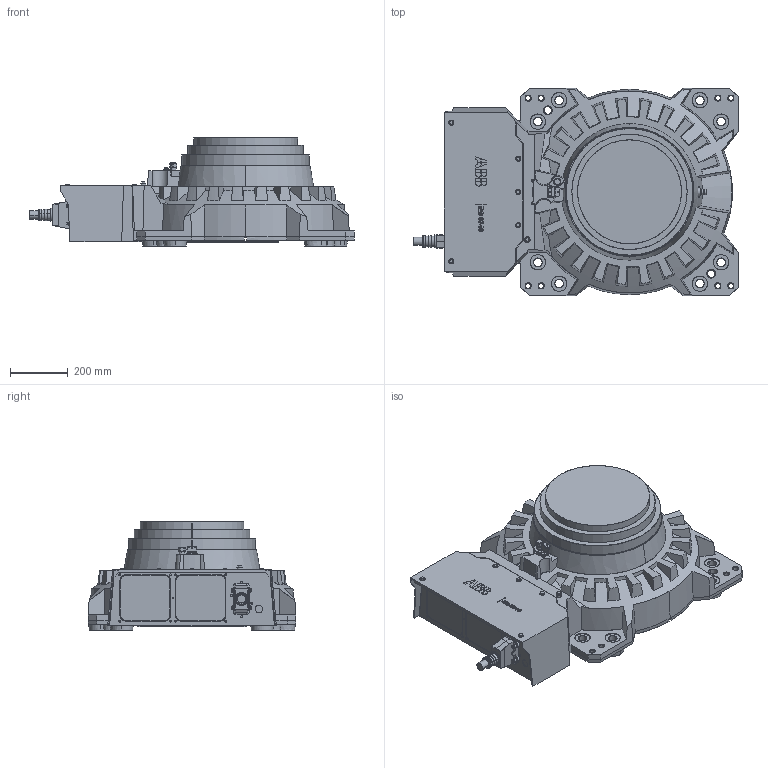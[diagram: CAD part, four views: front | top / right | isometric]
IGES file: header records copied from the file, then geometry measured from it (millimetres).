
Start section: SolidWorks IGES file using analytic representation for surfaces
Global section: file name: C:\Data\SAP_DOC\IRB6740_lightweight\6740\IRB6740-LID-MH_220kg-320_OC_01_SW_J\IRB6740-LID-MH_220kg-320_OC_01_IGES_J\IRB6740-LID_220kg-320_OC_00_BASE_CAD.igs; native system: SolidWorks 2024; preprocessor: SolidWorks 2024; author: SEJAOLS6; date: 260513.070740; units: millimetre
Bounding box: 1124.5 x 720 x 374 mm (x, y, z)
Surface area: 2785970.8 mm2 (no closed solid volume)
Topology: 0 solids, 0 shells, 1131 faces, 16120 edges, 16116 vertices
Faces by surface type: bspline 676, revolution 455
